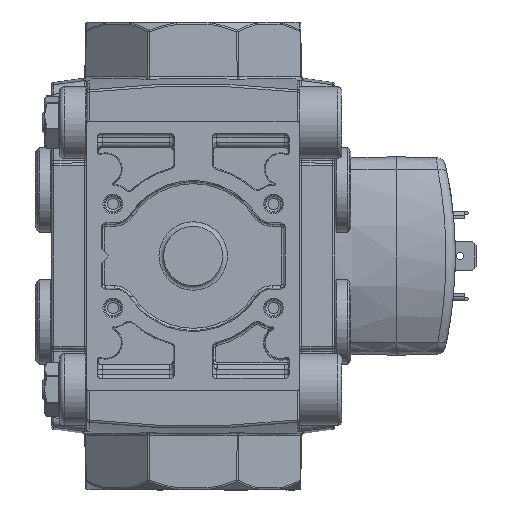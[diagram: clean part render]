
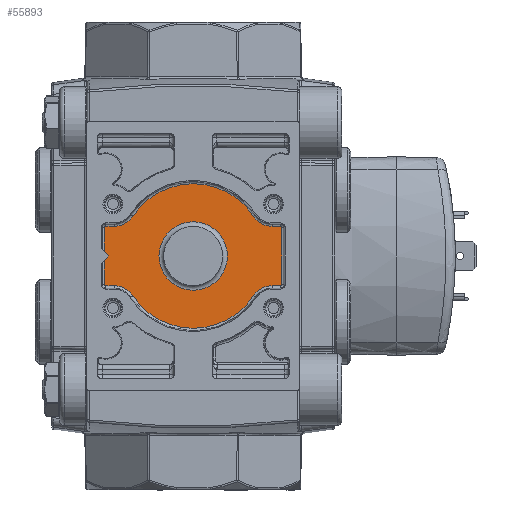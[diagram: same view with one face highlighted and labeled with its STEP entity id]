
A CAD part, front view. The second image highlights one B-rep face of the part: STEP entity #55893.
In plain terms, the highlighted planar face has unit normal (0, -1, 0).
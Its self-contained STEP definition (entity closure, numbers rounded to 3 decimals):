
#4405=FACE_BOUND('',#20529,.T.);
#5879=CIRCLE('',#60071,0.303);
#5882=CIRCLE('',#60076,4.697);
#5884=CIRCLE('',#60079,15.303);
#5886=CIRCLE('',#60082,4.697);
#5889=CIRCLE('',#60086,0.303);
#5892=CIRCLE('',#60090,0.303);
#5896=CIRCLE('',#60095,0.303);
#5925=CIRCLE('',#60152,4.697);
#5926=CIRCLE('',#60153,15.303);
#5927=CIRCLE('',#60154,4.697);
#5928=CIRCLE('',#60155,7.25);
#5929=CIRCLE('',#60156,7.25);
#9847=LINE('',#111104,#13413);
#9848=LINE('',#111120,#13414);
#9849=LINE('',#111136,#13415);
#9850=LINE('',#111154,#13416);
#9851=LINE('',#111171,#13417);
#9897=LINE('',#111595,#13463);
#9898=LINE('',#111602,#13464);
#9899=LINE('',#111604,#13465);
#9900=LINE('',#111605,#13466);
#13413=VECTOR('',#70325,10.);
#13414=VECTOR('',#70348,10.);
#13415=VECTOR('',#70357,10.);
#13416=VECTOR('',#70368,10.);
#13417=VECTOR('',#70377,10.);
#13463=VECTOR('',#70531,10.);
#13464=VECTOR('',#70538,10.);
#13465=VECTOR('',#70539,10.);
#13466=VECTOR('',#70540,10.);
#15152=PLANE('',#60151);
#17318=FACE_OUTER_BOUND('',#20528,.T.);
#20528=EDGE_LOOP('',(#47597,#47598,#47599,#47600,#47601,#47602,#47603,#47604,
#47605,#47606,#47607,#47608,#47609,#47610,#47611,#47612,#47613,#47614,#47615));
#20529=EDGE_LOOP('',(#47616,#47617));
#27380=VERTEX_POINT('',#111096);
#27381=VERTEX_POINT('',#111098);
#27382=VERTEX_POINT('',#111102);
#27383=VERTEX_POINT('',#111106);
#27384=VERTEX_POINT('',#111110);
#27385=VERTEX_POINT('',#111114);
#27386=VERTEX_POINT('',#111118);
#27387=VERTEX_POINT('',#111130);
#27388=VERTEX_POINT('',#111134);
#27389=VERTEX_POINT('',#111146);
#27390=VERTEX_POINT('',#111150);
#27391=VERTEX_POINT('',#111152);
#27392=VERTEX_POINT('',#111164);
#27393=VERTEX_POINT('',#111168);
#27453=VERTEX_POINT('',#111594);
#27454=VERTEX_POINT('',#111596);
#27455=VERTEX_POINT('',#111598);
#27456=VERTEX_POINT('',#111600);
#27457=VERTEX_POINT('',#111603);
#27458=VERTEX_POINT('',#111606);
#27459=VERTEX_POINT('',#111607);
#34647=EDGE_CURVE('',#27381,#27380,#5879,.T.);
#34649=EDGE_CURVE('',#27380,#27382,#9847,.T.);
#34651=EDGE_CURVE('',#27382,#27383,#5882,.T.);
#34653=EDGE_CURVE('',#27383,#27384,#5884,.T.);
#34655=EDGE_CURVE('',#27384,#27385,#5886,.T.);
#34657=EDGE_CURVE('',#27385,#27386,#9848,.T.);
#34659=EDGE_CURVE('',#27386,#27387,#5889,.T.);
#34661=EDGE_CURVE('',#27387,#27388,#9849,.T.);
#34663=EDGE_CURVE('',#27388,#27389,#5892,.T.);
#34666=EDGE_CURVE('',#27391,#27390,#9850,.T.);
#34668=EDGE_CURVE('',#27390,#27392,#5896,.T.);
#34670=EDGE_CURVE('',#27393,#27381,#9851,.T.);
#34754=EDGE_CURVE('',#27392,#27453,#9897,.T.);
#34755=EDGE_CURVE('',#27454,#27391,#5925,.T.);
#34756=EDGE_CURVE('',#27455,#27454,#5926,.T.);
#34757=EDGE_CURVE('',#27456,#27455,#5927,.T.);
#34758=EDGE_CURVE('',#27389,#27456,#9898,.T.);
#34759=EDGE_CURVE('',#27457,#27393,#9899,.T.);
#34760=EDGE_CURVE('',#27453,#27457,#9900,.T.);
#34761=EDGE_CURVE('',#27458,#27459,#5928,.T.);
#34762=EDGE_CURVE('',#27459,#27458,#5929,.T.);
#47597=ORIENTED_EDGE('',*,*,#34754,.F.);
#47598=ORIENTED_EDGE('',*,*,#34668,.F.);
#47599=ORIENTED_EDGE('',*,*,#34666,.F.);
#47600=ORIENTED_EDGE('',*,*,#34755,.F.);
#47601=ORIENTED_EDGE('',*,*,#34756,.F.);
#47602=ORIENTED_EDGE('',*,*,#34757,.F.);
#47603=ORIENTED_EDGE('',*,*,#34758,.F.);
#47604=ORIENTED_EDGE('',*,*,#34663,.F.);
#47605=ORIENTED_EDGE('',*,*,#34661,.F.);
#47606=ORIENTED_EDGE('',*,*,#34659,.F.);
#47607=ORIENTED_EDGE('',*,*,#34657,.F.);
#47608=ORIENTED_EDGE('',*,*,#34655,.F.);
#47609=ORIENTED_EDGE('',*,*,#34653,.F.);
#47610=ORIENTED_EDGE('',*,*,#34651,.F.);
#47611=ORIENTED_EDGE('',*,*,#34649,.F.);
#47612=ORIENTED_EDGE('',*,*,#34647,.F.);
#47613=ORIENTED_EDGE('',*,*,#34670,.F.);
#47614=ORIENTED_EDGE('',*,*,#34759,.F.);
#47615=ORIENTED_EDGE('',*,*,#34760,.F.);
#47616=ORIENTED_EDGE('',*,*,#34761,.F.);
#47617=ORIENTED_EDGE('',*,*,#34762,.F.);
#55893=ADVANCED_FACE('',(#17318,#4405),#15152,.T.);
#60071=AXIS2_PLACEMENT_3D('',#111100,#70319,#70320);
#60076=AXIS2_PLACEMENT_3D('',#111108,#70330,#70331);
#60079=AXIS2_PLACEMENT_3D('',#111112,#70336,#70337);
#60082=AXIS2_PLACEMENT_3D('',#111116,#70342,#70343);
#60086=AXIS2_PLACEMENT_3D('',#111132,#70351,#70352);
#60090=AXIS2_PLACEMENT_3D('',#111148,#70360,#70361);
#60095=AXIS2_PLACEMENT_3D('',#111166,#70371,#70372);
#60151=AXIS2_PLACEMENT_3D('',#111593,#70529,#70530);
#60152=AXIS2_PLACEMENT_3D('',#111597,#70532,#70533);
#60153=AXIS2_PLACEMENT_3D('',#111599,#70534,#70535);
#60154=AXIS2_PLACEMENT_3D('',#111601,#70536,#70537);
#60155=AXIS2_PLACEMENT_3D('',#111608,#70541,#70542);
#60156=AXIS2_PLACEMENT_3D('',#111609,#70543,#70544);
#70319=DIRECTION('center_axis',(0.,1.,0.));
#70320=DIRECTION('ref_axis',(-0.707,0.,0.707));
#70325=DIRECTION('',(1.,0.,0.));
#70330=DIRECTION('center_axis',(0.,-1.,0.));
#70331=DIRECTION('ref_axis',(0.474,0.,-0.88));
#70336=DIRECTION('center_axis',(0.,1.,0.));
#70337=DIRECTION('ref_axis',(0.,0.,
1.));
#70342=DIRECTION('center_axis',(0.,-1.,0.));
#70343=DIRECTION('ref_axis',(-0.474,0.,-0.88));
#70348=DIRECTION('',(1.,0.,0.));
#70351=DIRECTION('center_axis',(0.,1.,0.));
#70352=DIRECTION('ref_axis',(0.707,0.,0.707));
#70357=DIRECTION('',(0.,0.,-1.));
#70360=DIRECTION('center_axis',(0.,1.,0.));
#70361=DIRECTION('ref_axis',(0.707,0.,-0.707));
#70368=DIRECTION('',(-1.,0.,0.));
#70371=DIRECTION('center_axis',(0.,1.,0.));
#70372=DIRECTION('ref_axis',(-0.707,0.,-0.707));
#70377=DIRECTION('',(0.,0.,1.));
#70529=DIRECTION('center_axis',(0.,-1.,0.));
#70530=DIRECTION('ref_axis',(0.,0.,
-1.));
#70531=DIRECTION('',(0.,0.,1.));
#70532=DIRECTION('center_axis',(0.,-1.,0.));
#70533=DIRECTION('ref_axis',(0.474,0.,0.88));
#70534=DIRECTION('center_axis',(0.,1.,0.));
#70535=DIRECTION('ref_axis',(0.,0.,
-1.));
#70536=DIRECTION('center_axis',(0.,-1.,0.));
#70537=DIRECTION('ref_axis',(-0.474,0.,0.88));
#70538=DIRECTION('',(-1.,0.,0.));
#70539=DIRECTION('',(-0.707,0.,0.707));
#70540=DIRECTION('',(0.707,0.,0.707));
#70541=DIRECTION('center_axis',(0.,-1.,0.));
#70542=DIRECTION('ref_axis',(-1.,0.,0.));
#70543=DIRECTION('center_axis',(0.,-1.,0.));
#70544=DIRECTION('ref_axis',(-1.,0.,0.));
#111096=CARTESIAN_POINT('',(-18.5,-20.5,6.303));
#111098=CARTESIAN_POINT('',(-18.803,-20.5,6.));
#111100=CARTESIAN_POINT('Origin',(-18.5,-20.5,6.));
#111102=CARTESIAN_POINT('',(-16.703,-20.5,6.303));
#111104=CARTESIAN_POINT('',(-9.75,-20.5,6.303));
#111106=CARTESIAN_POINT('',(-12.78,-20.5,8.416));
#111108=CARTESIAN_POINT('Origin',(-16.703,-20.5,11.));
#111110=CARTESIAN_POINT('',(12.78,-20.5,8.416));
#111112=CARTESIAN_POINT('Origin',(0.,-20.5,0.));
#111114=CARTESIAN_POINT('',(16.703,-20.5,6.303));
#111116=CARTESIAN_POINT('Origin',(16.703,-20.5,11.));
#111118=CARTESIAN_POINT('',(18.5,-20.5,6.303));
#111120=CARTESIAN_POINT('',(7.194,-20.5,6.303));
#111130=CARTESIAN_POINT('',(18.803,-20.5,6.));
#111132=CARTESIAN_POINT('Origin',(18.5,-20.5,6.));
#111134=CARTESIAN_POINT('',(18.803,-20.5,-6.));
#111136=CARTESIAN_POINT('',(18.803,-20.5,3.5));
#111146=CARTESIAN_POINT('',(18.5,-20.5,-6.303));
#111148=CARTESIAN_POINT('Origin',(18.5,-20.5,-6.));
#111150=CARTESIAN_POINT('',(-18.5,-20.5,-6.303));
#111152=CARTESIAN_POINT('',(-16.703,-20.5,-6.303));
#111154=CARTESIAN_POINT('',(-7.194,-20.5,-6.303));
#111164=CARTESIAN_POINT('',(-18.803,-20.5,-6.));
#111166=CARTESIAN_POINT('Origin',(-18.5,-20.5,-6.));
#111168=CARTESIAN_POINT('',(-18.803,-20.5,0.803));
#111171=CARTESIAN_POINT('',(-18.803,-20.5,0.75));
#111593=CARTESIAN_POINT('Origin',(0.,-20.5,0.));
#111594=CARTESIAN_POINT('',(-18.803,-20.5,-0.803));
#111595=CARTESIAN_POINT('',(-18.803,-20.5,-3.5));
#111596=CARTESIAN_POINT('',(-12.78,-20.5,-8.416));
#111597=CARTESIAN_POINT('Origin',(-16.703,-20.5,-11.));
#111598=CARTESIAN_POINT('',(12.78,-20.5,-8.416));
#111599=CARTESIAN_POINT('Origin',(0.,-20.5,0.));
#111600=CARTESIAN_POINT('',(16.703,-20.5,-6.303));
#111601=CARTESIAN_POINT('Origin',(16.703,-20.5,-11.));
#111602=CARTESIAN_POINT('',(9.75,-20.5,-6.303));
#111603=CARTESIAN_POINT('',(-18.,-20.5,0.));
#111604=CARTESIAN_POINT('',(-13.5,-20.5,-4.5));
#111605=CARTESIAN_POINT('',(-14.25,-20.5,3.75));
#111606=CARTESIAN_POINT('',(7.25,-20.5,0.));
#111607=CARTESIAN_POINT('',(0.,-20.5,7.25));
#111608=CARTESIAN_POINT('Origin',(0.,-20.5,0.));
#111609=CARTESIAN_POINT('Origin',(0.,-20.5,0.));
